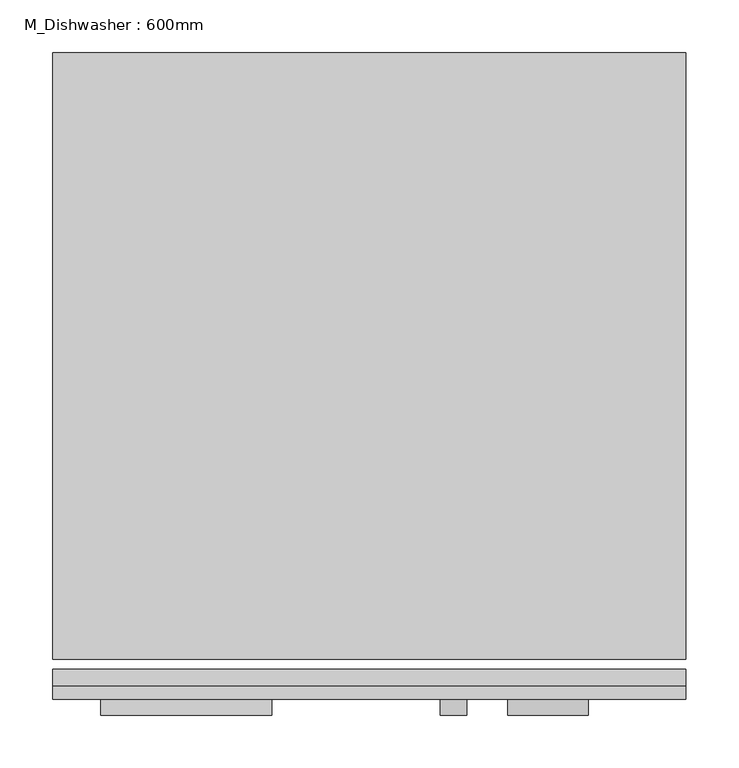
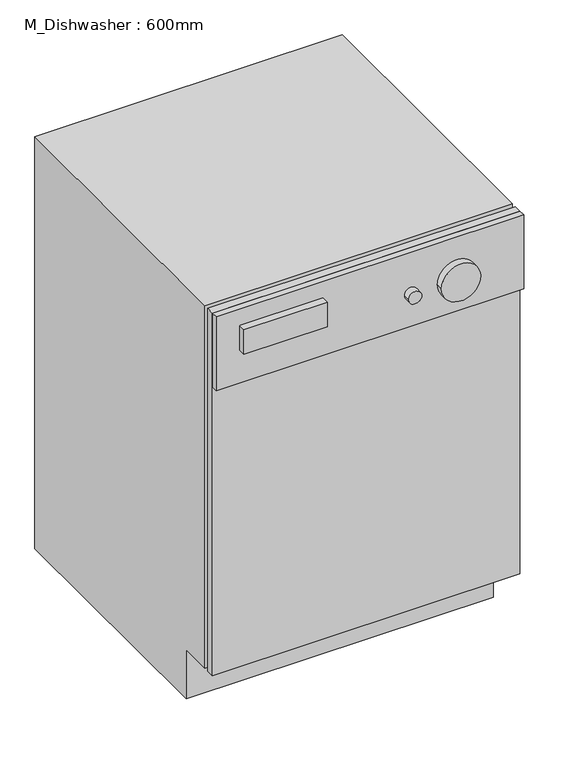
"""IFC4 building model written with IfcOpenShell, lengths in millimetres: proxy geometry, M_Dishwasher : 600mm."""

import ifcopenshell
import ifcopenshell.guid

model = None  # the IFC model being written
_history = None  # IfcOwnerHistory: only IFC2X3 demands one
_inside = {}  # id of a spatial element -> (the spatial element, [elements in it])
_under = {}  # id of a project, library or spatial element -> (it, [spatial elements below it])
_declared = {}  # id of a project -> (the project, [libraries it declares])
_typed = {}  # id of a type object -> (the type object, [elements of that type])
_made_of = {}  # id of a material, layer set ... -> (it, [elements and type objects made of it])


def new_model(schema):
    """Start an empty IFC model of exactly this schema.

    Asked for "IFC4X3", IfcOpenShell would pick the latest addendum, in which some entities
    have other attributes; the version numbers below select the first issue.
    IFC2X3 requires an IfcOwnerHistory on every rooted entity: one is made here for all.
    """
    global model, _history
    if schema == "IFC4X3":
        model = ifcopenshell.file(schema_version=(4, 3, 0, 0))
    else:
        model = ifcopenshell.file(schema=schema)
    _inside.clear()
    _under.clear()
    _declared.clear()
    _typed.clear()
    _made_of.clear()
    _history = None
    if model.schema == "IFC2X3":
        org = make("IfcOrganization", Name="unknown")
        user = make(
            "IfcPersonAndOrganization",
            ThePerson=make("IfcPerson", FamilyName="unknown"),
            TheOrganization=org,
        )
        app = make(
            "IfcApplication",
            ApplicationDeveloper=org,
            Version="unknown",
            ApplicationFullName="unknown",
            ApplicationIdentifier="unknown",
        )
        _history = make(
            "IfcOwnerHistory",
            OwningUser=user,
            OwningApplication=app,
            ChangeAction="ADDED",
            CreationDate=0,
        )
    return model


def make(cls, **values):
    """One entity of the class cls with the attributes given. An attribute that is None is left unset."""
    return model.create_entity(
        cls, **{name: value for name, value in values.items() if value is not None}
    )


def rooted(cls, **values):
    """An entity with a GlobalId (a new one), such as an element, a storey or a relation."""
    return make(cls, GlobalId=ifcopenshell.guid.new(), OwnerHistory=_history, **values)


def si_unit(unit_type, name, prefix=None):
    """IfcSIUnit, for example si_unit("LENGTHUNIT", "METRE", prefix="MILLI")."""
    return make("IfcSIUnit", UnitType=unit_type, Prefix=prefix, Name=name)


def assignment(units):
    """IfcUnitAssignment: the units of a project."""
    return None if units is None else make("IfcUnitAssignment", Units=units)


def point(xyz):
    """IfcCartesianPoint."""
    return None if xyz is None else make("IfcCartesianPoint", Coordinates=xyz)


def direction(xyz):
    """IfcDirection."""
    return None if xyz is None else make("IfcDirection", DirectionRatios=xyz)


def frame(location, z_axis=None, x_axis=None):
    """IfcAxis2Placement3D, a coordinate frame: its origin and axes. An axis left out is left unset."""
    return make(
        "IfcAxis2Placement3D",
        Location=point(location),
        Axis=direction(z_axis),
        RefDirection=direction(x_axis),
    )


def frame_2d(location, x_axis=None):
    """IfcAxis2Placement2D, a coordinate frame in the plane: its origin and x axis."""
    return make(
        "IfcAxis2Placement2D", Location=point(location), RefDirection=direction(x_axis)
    )


def origin():
    """The frame at (0, 0, 0) with its axes left unset."""
    return frame((0.0, 0.0, 0.0))


def place(relative_to, where):
    """IfcLocalPlacement: puts the frame where relative to a parent placement (None: the world)."""
    return make(
        "IfcLocalPlacement", PlacementRelTo=relative_to, RelativePlacement=where
    )


def context(
    kind, dimensions, precision=None, world=None, true_north=None, identifier=None
):
    """IfcGeometricRepresentationContext, for example the 3D "Model" context."""
    return make(
        "IfcGeometricRepresentationContext",
        ContextIdentifier=identifier,
        ContextType=kind,
        CoordinateSpaceDimension=dimensions,
        Precision=precision,
        WorldCoordinateSystem=world,
        TrueNorth=true_north,
    )


def project(units=None, contexts=None):
    """IfcProject with its units and contexts."""
    return rooted(
        "IfcProject",
        Name="project",
        RepresentationContexts=contexts,
        UnitsInContext=assignment(units),
    )


def spatial(cls, under=None, at=None, **own):
    """A site, building, storey or space (cls), placed at a placement, below another one or the project."""
    s = rooted(cls, ObjectPlacement=at, **own)
    if under is not None:
        _under.setdefault(under.id(), (under, []))[1].append(s)
    return s


def polyline(points):
    """IfcPolyline through the points."""
    return make("IfcPolyline", Points=[point(p) for p in points])


def circle_curve(where, radius):
    """IfcCircle in the frame where."""
    return make("IfcCircle", Position=where, Radius=radius)


def trimmed(basis, trim1, trim2, sense, master):
    """IfcTrimmedCurve: the piece of a basis curve between two trims."""
    return make(
        "IfcTrimmedCurve",
        BasisCurve=basis,
        Trim1=trim1,
        Trim2=trim2,
        SenseAgreement=sense,
        MasterRepresentation=master,
    )


def segment(curve, same_sense, transition):
    """IfcCompositeCurveSegment."""
    return make(
        "IfcCompositeCurveSegment",
        Transition=transition,
        SameSense=same_sense,
        ParentCurve=curve,
    )


def composite_curve(segments, self_intersect=None):
    """IfcCompositeCurve: segments joined end to end."""
    return make("IfcCompositeCurve", Segments=segments, SelfIntersect=self_intersect)


def outline(outer, holes=None, kind="AREA"):
    """IfcArbitraryClosedProfileDef: a profile drawn as a closed curve; with holes, ...WithVoids."""
    if holes is None:
        return make("IfcArbitraryClosedProfileDef", ProfileType=kind, OuterCurve=outer)
    return make(
        "IfcArbitraryProfileDefWithVoids",
        ProfileType=kind,
        OuterCurve=outer,
        InnerCurves=holes,
    )


def extrude(swept, where, along, depth):
    """IfcExtrudedAreaSolid: the profile swept, set in the frame where, extruded along a direction by depth."""
    return make(
        "IfcExtrudedAreaSolid",
        SweptArea=swept,
        Position=where,
        ExtrudedDirection=direction(along),
        Depth=depth,
    )


def shape(context_of_items, identifier, shape_type, items):
    """IfcShapeRepresentation: the items that make up one representation, for example the "Body"."""
    return make(
        "IfcShapeRepresentation",
        ContextOfItems=context_of_items,
        RepresentationIdentifier=identifier,
        RepresentationType=shape_type,
        Items=items,
    )


def source(mapping_origin, context_of_items, identifier, shape_type, items):
    """IfcRepresentationMap: a shape defined once, which mapped items show again and again."""
    return make(
        "IfcRepresentationMap",
        MappingOrigin=mapping_origin,
        MappedRepresentation=shape(context_of_items, identifier, shape_type, items),
    )


def transform(
    local_origin,
    x_axis=None,
    y_axis=None,
    z_axis=None,
    scale=None,
    scale2=None,
    scale3=None,
    uniform=True,
):
    """IfcCartesianTransformationOperator3D, or its non-uniform kind. x_axis, y_axis, z_axis: its Axis1, 2, 3."""
    if uniform:
        return make(
            "IfcCartesianTransformationOperator3D",
            Axis1=direction(x_axis),
            Axis2=direction(y_axis),
            LocalOrigin=point(local_origin),
            Scale=scale,
            Axis3=direction(z_axis),
        )
    return make(
        "IfcCartesianTransformationOperator3DnonUniform",
        Axis1=direction(x_axis),
        Axis2=direction(y_axis),
        LocalOrigin=point(local_origin),
        Scale=scale,
        Axis3=direction(z_axis),
        Scale2=scale2,
        Scale3=scale3,
    )


def mapped(mapping_source, mapping_target):
    """IfcMappedItem: shows the shape of a source again, moved by a transform."""
    return make(
        "IfcMappedItem", MappingSource=mapping_source, MappingTarget=mapping_target
    )


def made_of(thing, what):
    """Note that an element or type object is made of a material, layer set ...; save() writes the relation."""
    if what is not None:
        _made_of.setdefault(what.id(), (what, []))[1].append(thing)
    return thing


def element(
    cls,
    number,
    at=None,
    inside=None,
    cuts=None,
    type_object=None,
    material=None,
    context=None,
    identifier="Body",
    shape_type=None,
    held_by="IfcProductDefinitionShape",
    body=None,
    shapes=None,
    **own,
):
    """One element of the class cls, such as IfcWall. Its Tag is "e" and its number.

    at: its placement. inside: the storey or other place that contains it. cuts: it is an
    opening in that element (IfcRelVoidsElement). A single representation is given by context,
    identifier, shape_type and body (its items); several are given by shapes. held_by: the class
    of the entity that holds the representations. save() writes the other relations.
    """
    e = rooted(cls, Tag="e%d" % number, ObjectPlacement=at, **own)
    if body is not None:
        shapes = [shape(context, identifier, shape_type, body)]
    if shapes is not None:
        e.Representation = make(held_by, Representations=shapes)
    if inside is not None:
        _inside.setdefault(inside.id(), (inside, []))[1].append(e)
    if cuts is not None:
        rooted(
            "IfcRelVoidsElement", RelatingBuildingElement=cuts, RelatedOpeningElement=e
        )
    if type_object is not None:
        _typed.setdefault(type_object.id(), (type_object, []))[1].append(e)
    return made_of(e, material)


def aggregate(whole, parts):
    """IfcRelAggregates: a whole, such as a stair, and the parts it consists of."""
    return rooted("IfcRelAggregates", RelatingObject=whole, RelatedObjects=parts)


def save(model, path):
    """Write the relations noted so far, then the file.

    IfcRelAggregates (storeys below a building ...), IfcRelContainedInSpatialStructure (elements
    in a storey), IfcRelDefinesByType, IfcRelAssociatesMaterial and IfcRelDeclares: one each for
    every whole, place, type object, material and project.
    """
    for whole, parts in _under.values():
        aggregate(whole, parts)
    for where, things in _inside.values():
        rooted(
            "IfcRelContainedInSpatialStructure",
            RelatedElements=things,
            RelatingStructure=where,
        )
    for kind, things in _typed.values():
        rooted("IfcRelDefinesByType", RelatedObjects=things, RelatingType=kind)
    for what, things in _made_of.values():
        rooted("IfcRelAssociatesMaterial", RelatedObjects=things, RelatingMaterial=what)
    for by, libraries in _declared.values():
        rooted("IfcRelDeclares", RelatingContext=by, RelatedDefinitions=libraries)
    model.write(path)


def m_dishwasher_600mm_bc371557(model_context):
    return source(origin(), model_context, "Body", "SweptSolid", [
        extrude(outline(polyline([(677.5174685, -38.3504352), (77.5174685, -38.3504352), (77.5174685, -22.4754352), (677.5174685, -22.4754352), (677.5174685, -38.3504352)])), frame((0.0, 0.0, 101.6), z_axis=(0.0, 0.0, 1.0), x_axis=(1.0, 0.0, 0.0)), (0.0, 0.0, 1.0), 748.4),
        extrude(outline(polyline([(677.5174685, -38.3504352), (677.5174685, -51.0504352), (77.5174685, -51.0504352), (77.5174685, -38.3504352), (677.5174685, -38.3504352)])), frame((0.0, 0.0, 697.6), z_axis=(0.0, 0.0, 1.0), x_axis=(1.0, 0.0, 0.0)), (0.0, 0.0, 1.0), 152.4),
        extrude(outline(polyline([(561.6495648, 0.0), (50.5495648, 0.0), (50.5495648, 101.6), (-12.9504352, 101.6), (-12.9504352, 850.0), (561.6495648, 850.0), (561.6495648, 0.0)])), frame((77.5174685, 0.0, 0.0), z_axis=(1.0, 0.0, 0.0), x_axis=(0.0, 1.0, 0.0)), (0.0, 0.0, 1.0), 600.0),
        extrude(outline(polyline([(285.2347603, -66.0504352), (122.8347603, -66.0504352), (122.8347603, -51.0504352), (285.2347603, -51.0504352), (285.2347603, -66.0504352)])), frame((0.0, 0.0, 765.6663551), z_axis=(0.0, 0.0, 1.0), x_axis=(1.0, 0.0, 0.0)), (0.0, 0.0, 1.0), 50.8),
        extrude(outline(composite_curve([segment(trimmed(circle_curve(frame_2d((765.6663551, 457.3393328)), 12.7), [point((765.6663551, 470.0393328))], [point((765.6663551, 444.6393328))], False, "CARTESIAN"), True, "CONTINUOUS"), segment(trimmed(circle_curve(frame_2d((765.6663551, 457.3393328)), 12.7), [point((765.6663551, 444.6393328))], [point((765.6663551, 470.0393328))], False, "CARTESIAN"), True, "CONTINUOUS")], self_intersect=False)), frame((0.0, -66.0504352, 0.0), z_axis=(0.0, 1.0, 0.0), x_axis=(0.0, 0.0, 1.0)), (0.0, 0.0, 1.0), 15.0),
        extrude(outline(composite_curve([segment(trimmed(circle_curve(frame_2d((765.6663551, 546.7855874)), 38.1), [point((765.6663551, 584.8855874))], [point((765.6663551, 508.6855874))], False, "CARTESIAN"), True, "CONTINUOUS"), segment(trimmed(circle_curve(frame_2d((765.6663551, 546.7855874)), 38.1), [point((765.6663551, 508.6855874))], [point((765.6663551, 584.8855874))], False, "CARTESIAN"), True, "CONTINUOUS")], self_intersect=False)), frame((0.0, -66.0504352, 0.0), z_axis=(0.0, 1.0, 0.0), x_axis=(0.0, 0.0, 1.0)), (0.0, 0.0, 1.0), 15.0),
    ])


if __name__ == "__main__":
    model = new_model("IFC4")
    model_context = context("Model", 3, world=origin())
    ifc_project = project(units=[si_unit("LENGTHUNIT", "METRE", prefix="MILLI")], contexts=[model_context])
    site = spatial("IfcSite", under=ifc_project)
    building = spatial("IfcBuilding", under=site)
    placement = place(None, origin())
    m_dishwasher_600mm_shape = m_dishwasher_600mm_bc371557(model_context)
    element("IfcBuildingElementProxy", 1, Name="M_Dishwasher : 600mm", ObjectType="M_Dishwasher : 600mm", at=placement, inside=building, context=model_context, shape_type="MappedRepresentation", body=[
        mapped(m_dishwasher_600mm_shape, transform((0.0, 0.0, 0.0), x_axis=(1.0, 0.0, 0.0), y_axis=(0.0, 1.0, 0.0), z_axis=(0.0, 0.0, 1.0))),
    ])
    save(model, "model.ifc")
